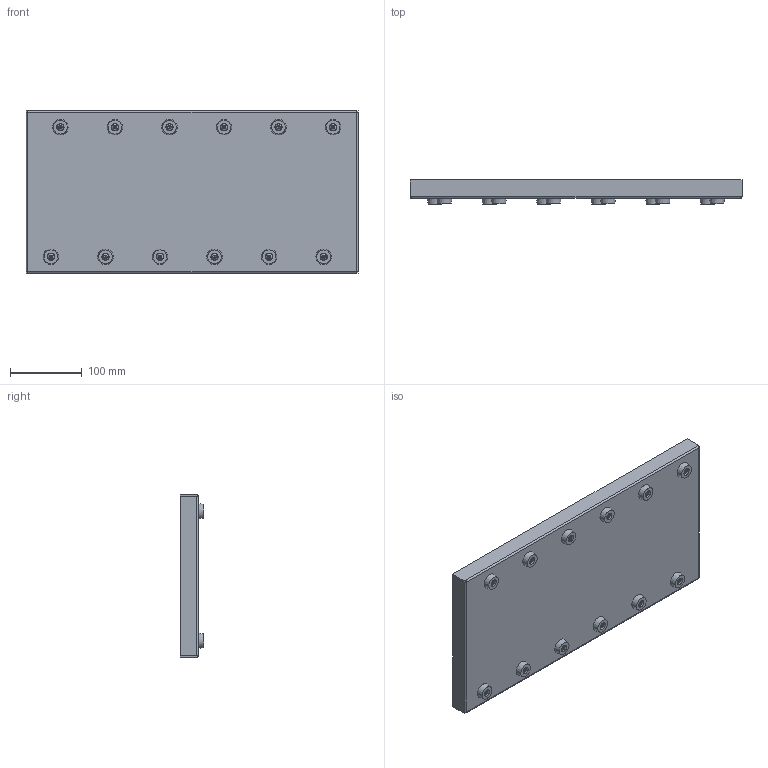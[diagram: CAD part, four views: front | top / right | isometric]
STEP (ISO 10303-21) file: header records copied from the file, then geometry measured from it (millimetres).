
FILE_DESCRIPTION((''),'2;1');
FILE_NAME('C:\copy my documents\Inventor\web site project\ITA Protective Covers\40-230260-01-RevA-STP.stp','2013-08-28T12:31:17',('davecooper'),(''),'Autodesk Inventor 2011','Autodesk Inventor 2011','');
FILE_SCHEMA(('AUTOMOTIVE_DESIGN { 1 0 10303 214 1 1 1 1 }'));
Length unit declared in the file: inch
Products named in the file (6): 40-230260-01-CU; 40-230260-01; 5510073; 172-625; 832F#5; BF312875B
Assembly tree (38 placements, depth 3):
  40-230260-01-CU
    40-230260-01
      5510073
      172-625  x12
      832F#5  x12
      BF312875B  x12
Bounding box: 463.8 x 33.32 x 226.82 mm (x, y, z)
Volume: 379769.7 mm3; surface area: 319279.3 mm2
Topology: 37 solids, 37 shells, 650 faces, 1176 edges, 648 vertices
Faces by surface type: plane 426, cylinder 128, cone 84, torus 12
Full cylindrical faces by diameter (mm): 3.302 x12, 4.166 x12, 4.496 x12, 4.75 x12, 8.179 x12, 8.204 x24, 10.16 x12, 10.312 x12, 15.875 x12
Entity records: 2940 total; most frequent: DIRECTION 530, CARTESIAN_POINT 439, ORIENTED_EDGE 354, AXIS2_PLACEMENT_3D 209, EDGE_CURVE 177, EDGE_LOOP 161, VERTEX_POINT 118, VECTOR 112
